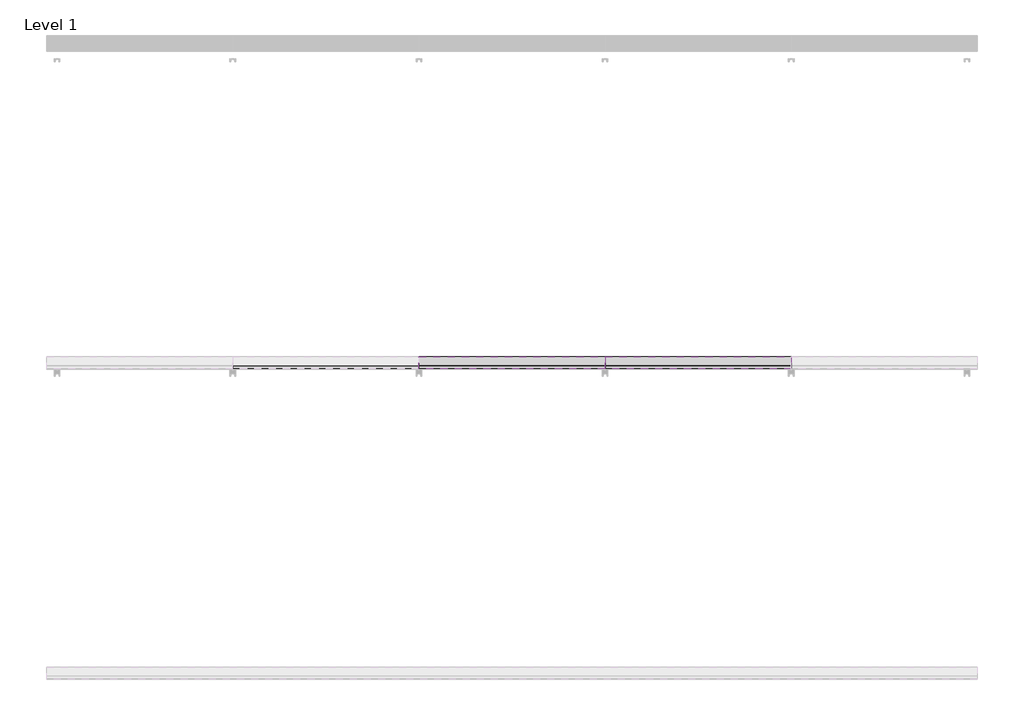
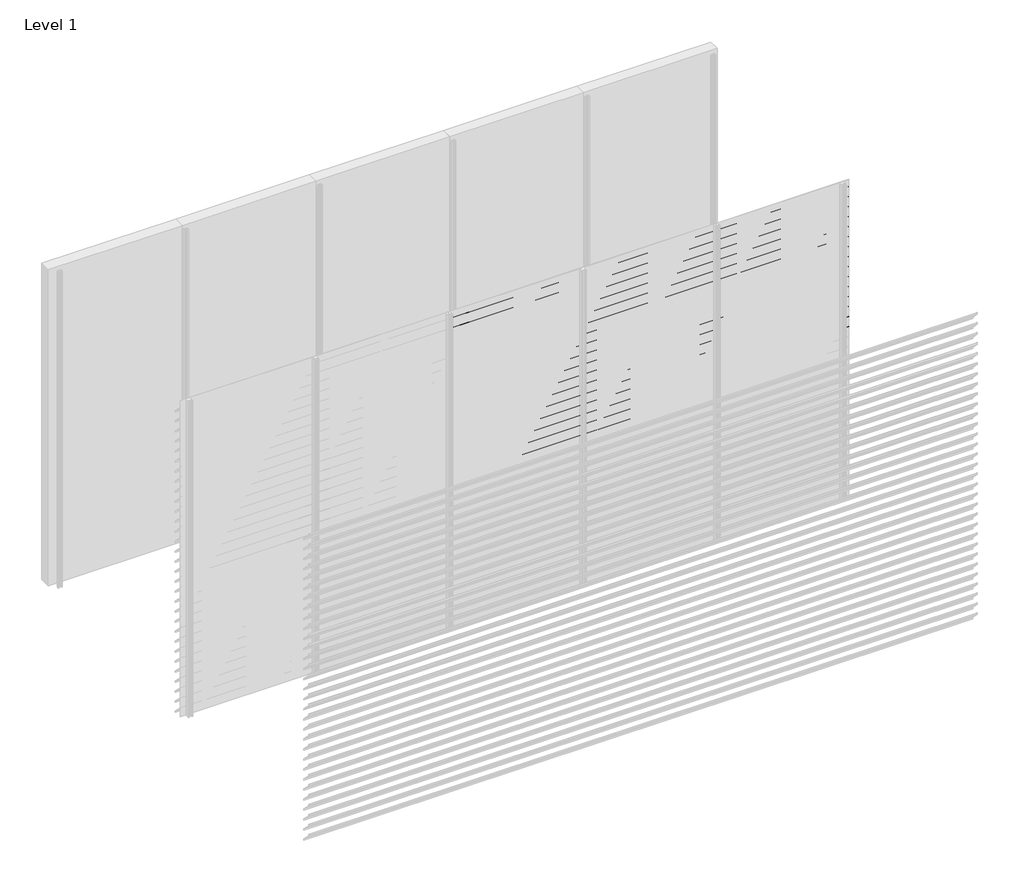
# One storey, part 19 of 24: 89 proxies.
"""IFC4 building model written with IfcOpenShell, lengths in millimetres."""

from ifc_helpers import new_model, si_unit, frame, origin, place, context, project, spatial, polyline, outline, extrude, element, save

model = new_model("IFC4")

# Units and contexts
model_context = context("Model", 3, world=origin())
ifc_project = project(units=[si_unit("LENGTHUNIT", "METRE", prefix="MILLI")], contexts=[model_context])

# Site, building, storey
site = spatial("IfcSite", under=ifc_project)
building = spatial("IfcBuilding", under=site)
storey = spatial("IfcBuildingStorey", under=building, Name="Level 1", Elevation=0.0)

# Proxies
placement = place(None, origin())
element("IfcBuildingElementProxy", 1, Name="Wall Sweeps", at=placement, inside=storey, context=model_context, shape_type="SweptSolid", body=[
    extrude(outline(polyline([(-11920.8, 1037.9), (-11922.3, 1037.9), (-11922.3, 1050.1762333), (-11998.0, 1125.4561238), (-11998.0, 1140.0), (-11996.5, 1140.0), (-11996.5, 1126.0798905), (-11920.8, 1050.8), (-11920.8, 1037.9)])), frame((1200.0, 0.0, 0.0), z_axis=(1.0, 0.0, 0.0), x_axis=(0.0, 1.0, 0.0)), (0.0, 0.0, 1.0), 1200.0),
])
element("IfcBuildingElementProxy", 2, Name="Wall Sweeps", at=placement, inside=storey, context=model_context, shape_type="SweptSolid", body=[
    extrude(outline(polyline([(-11920.8, 942.9), (-11922.3, 942.9), (-11922.3, 955.1762333), (-11998.0, 1030.4561238), (-11998.0, 1045.0), (-11996.5, 1045.0), (-11996.5, 1031.0798905), (-11920.8, 955.8), (-11920.8, 942.9)])), frame((1200.0, 0.0, 0.0), z_axis=(1.0, 0.0, 0.0), x_axis=(0.0, 1.0, 0.0)), (0.0, 0.0, 1.0), 1200.0),
])
element("IfcBuildingElementProxy", 3, Name="Wall Sweeps", at=placement, inside=storey, context=model_context, shape_type="SweptSolid", body=[
    extrude(outline(polyline([(-11920.8, 847.9), (-11922.3, 847.9), (-11922.3, 860.1762333), (-11998.0, 935.4561238), (-11998.0, 950.0), (-11996.5, 950.0), (-11996.5, 936.0798905), (-11920.8, 860.8), (-11920.8, 847.9)])), frame((1200.0, 0.0, 0.0), z_axis=(1.0, 0.0, 0.0), x_axis=(0.0, 1.0, 0.0)), (0.0, 0.0, 1.0), 1200.0),
])
element("IfcBuildingElementProxy", 4, Name="Wall Sweeps", at=placement, inside=storey, context=model_context, shape_type="SweptSolid", body=[
    extrude(outline(polyline([(-11920.8, 752.9), (-11922.3, 752.9), (-11922.3, 765.1762333), (-11998.0, 840.4561238), (-11998.0, 855.0), (-11996.5, 855.0), (-11996.5, 841.0798905), (-11920.8, 765.8), (-11920.8, 752.9)])), frame((1200.0, 0.0, 0.0), z_axis=(1.0, 0.0, 0.0), x_axis=(0.0, 1.0, 0.0)), (0.0, 0.0, 1.0), 1200.0),
])
element("IfcBuildingElementProxy", 5, Name="Wall Sweeps", at=placement, inside=storey, context=model_context, shape_type="SweptSolid", body=[
    extrude(outline(polyline([(-11920.8, 657.9), (-11922.3, 657.9), (-11922.3, 670.1762333), (-11998.0, 745.4561238), (-11998.0, 760.0), (-11996.5, 760.0), (-11996.5, 746.0798905), (-11920.8, 670.8), (-11920.8, 657.9)])), frame((1200.0, 0.0, 0.0), z_axis=(1.0, 0.0, 0.0), x_axis=(0.0, 1.0, 0.0)), (0.0, 0.0, 1.0), 1200.0),
])
element("IfcBuildingElementProxy", 6, Name="Wall Sweeps", at=placement, inside=storey, context=model_context, shape_type="SweptSolid", body=[
    extrude(outline(polyline([(-11920.8, 562.9), (-11922.3, 562.9), (-11922.3, 575.1762333), (-11998.0, 650.4561238), (-11998.0, 665.0), (-11996.5, 665.0), (-11996.5, 651.0798905), (-11920.8, 575.8), (-11920.8, 562.9)])), frame((1200.0, 0.0, 0.0), z_axis=(1.0, 0.0, 0.0), x_axis=(0.0, 1.0, 0.0)), (0.0, 0.0, 1.0), 1200.0),
])
element("IfcBuildingElementProxy", 7, Name="Wall Sweeps", at=placement, inside=storey, context=model_context, shape_type="SweptSolid", body=[
    extrude(outline(polyline([(-11920.8, 467.9), (-11922.3, 467.9), (-11922.3, 480.1762333), (-11998.0, 555.4561238), (-11998.0, 570.0), (-11996.5, 570.0), (-11996.5, 556.0798905), (-11920.8, 480.8), (-11920.8, 467.9)])), frame((1200.0, 0.0, 0.0), z_axis=(1.0, 0.0, 0.0), x_axis=(0.0, 1.0, 0.0)), (0.0, 0.0, 1.0), 1200.0),
])
element("IfcBuildingElementProxy", 8, Name="Wall Sweeps", at=placement, inside=storey, context=model_context, shape_type="SweptSolid", body=[
    extrude(outline(polyline([(-11920.8, 372.9), (-11922.3, 372.9), (-11922.3, 385.1762333), (-11998.0, 460.4561238), (-11998.0, 475.0), (-11996.5, 475.0), (-11996.5, 461.0798905), (-11920.8, 385.8), (-11920.8, 372.9)])), frame((1200.0, 0.0, 0.0), z_axis=(1.0, 0.0, 0.0), x_axis=(0.0, 1.0, 0.0)), (0.0, 0.0, 1.0), 1200.0),
])
element("IfcBuildingElementProxy", 9, Name="Wall Sweeps", at=placement, inside=storey, context=model_context, shape_type="SweptSolid", body=[
    extrude(outline(polyline([(-11920.8, 277.9), (-11922.3, 277.9), (-11922.3, 290.1762333), (-11998.0, 365.4561238), (-11998.0, 380.0), (-11996.5, 380.0), (-11996.5, 366.0798905), (-11920.8, 290.8), (-11920.8, 277.9)])), frame((1200.0, 0.0, 0.0), z_axis=(1.0, 0.0, 0.0), x_axis=(0.0, 1.0, 0.0)), (0.0, 0.0, 1.0), 1200.0),
])
element("IfcBuildingElementProxy", 10, Name="Wall Sweeps", at=placement, inside=storey, context=model_context, shape_type="SweptSolid", body=[
    extrude(outline(polyline([(-11920.8, 182.9), (-11922.3, 182.9), (-11922.3, 195.1762333), (-11998.0, 270.4561238), (-11998.0, 285.0), (-11996.5, 285.0), (-11996.5, 271.0798905), (-11920.8, 195.8), (-11920.8, 182.9)])), frame((1200.0, 0.0, 0.0), z_axis=(1.0, 0.0, 0.0), x_axis=(0.0, 1.0, 0.0)), (0.0, 0.0, 1.0), 1200.0),
])
element("IfcBuildingElementProxy", 11, Name="Wall Sweeps", at=placement, inside=storey, context=model_context, shape_type="SweptSolid", body=[
    extrude(outline(polyline([(-11920.8, 87.9), (-11922.3, 87.9), (-11922.3, 100.1762333), (-11998.0, 175.4561238), (-11998.0, 190.0), (-11996.5, 190.0), (-11996.5, 176.0798905), (-11920.8, 100.8), (-11920.8, 87.9)])), frame((1200.0, 0.0, 0.0), z_axis=(1.0, 0.0, 0.0), x_axis=(0.0, 1.0, 0.0)), (0.0, 0.0, 1.0), 1200.0),
])
element("IfcBuildingElementProxy", 12, Name="Wall Sweeps", at=placement, inside=storey, context=model_context, shape_type="SweptSolid", body=[
    extrude(outline(polyline([(-11920.8, -7.1), (-11922.3, -7.1), (-11922.3, 5.1762333), (-11998.0, 80.4561238), (-11998.0, 95.0), (-11996.5, 95.0), (-11996.5, 81.0798905), (-11920.8, 5.8), (-11920.8, -7.1)])), frame((1200.0, 0.0, 0.0), z_axis=(1.0, 0.0, 0.0), x_axis=(0.0, 1.0, 0.0)), (0.0, 0.0, 1.0), 1200.0),
])
element("IfcBuildingElementProxy", 13, Name="Wall Sweeps", at=placement, inside=storey, context=model_context, shape_type="SweptSolid", body=[
    extrude(outline(polyline([(-11920.8, 2842.9), (-11922.3, 2842.9), (-11922.3, 2855.1762333), (-11998.0, 2930.4561238), (-11998.0, 2945.0), (-11996.5, 2945.0), (-11996.5, 2931.0798905), (-11920.8, 2855.8), (-11920.8, 2842.9)])), frame((2400.0, 0.0, 0.0), z_axis=(1.0, 0.0, 0.0), x_axis=(0.0, 1.0, 0.0)), (0.0, 0.0, 1.0), 1200.0),
])
element("IfcBuildingElementProxy", 14, Name="Wall Sweeps", at=placement, inside=storey, context=model_context, shape_type="SweptSolid", body=[
    extrude(outline(polyline([(-11920.8, 2747.9), (-11922.3, 2747.9), (-11922.3, 2760.1762333), (-11998.0, 2835.4561238), (-11998.0, 2850.0), (-11996.5, 2850.0), (-11996.5, 2836.0798905), (-11920.8, 2760.8), (-11920.8, 2747.9)])), frame((2400.0, 0.0, 0.0), z_axis=(1.0, 0.0, 0.0), x_axis=(0.0, 1.0, 0.0)), (0.0, 0.0, 1.0), 1200.0),
])
element("IfcBuildingElementProxy", 15, Name="Wall Sweeps", at=placement, inside=storey, context=model_context, shape_type="SweptSolid", body=[
    extrude(outline(polyline([(-11920.8, 2652.9), (-11922.3, 2652.9), (-11922.3, 2665.1762333), (-11998.0, 2740.4561238), (-11998.0, 2755.0), (-11996.5, 2755.0), (-11996.5, 2741.0798905), (-11920.8, 2665.8), (-11920.8, 2652.9)])), frame((2400.0, 0.0, 0.0), z_axis=(1.0, 0.0, 0.0), x_axis=(0.0, 1.0, 0.0)), (0.0, 0.0, 1.0), 1200.0),
])
element("IfcBuildingElementProxy", 16, Name="Wall Sweeps", at=placement, inside=storey, context=model_context, shape_type="SweptSolid", body=[
    extrude(outline(polyline([(-11920.8, 2557.9), (-11922.3, 2557.9), (-11922.3, 2570.1762333), (-11998.0, 2645.4561238), (-11998.0, 2660.0), (-11996.5, 2660.0), (-11996.5, 2646.0798905), (-11920.8, 2570.8), (-11920.8, 2557.9)])), frame((2400.0, 0.0, 0.0), z_axis=(1.0, 0.0, 0.0), x_axis=(0.0, 1.0, 0.0)), (0.0, 0.0, 1.0), 1200.0),
])
element("IfcBuildingElementProxy", 17, Name="Wall Sweeps", at=placement, inside=storey, context=model_context, shape_type="SweptSolid", body=[
    extrude(outline(polyline([(-11920.8, 2462.9), (-11922.3, 2462.9), (-11922.3, 2475.1762333), (-11998.0, 2550.4561238), (-11998.0, 2565.0), (-11996.5, 2565.0), (-11996.5, 2551.0798905), (-11920.8, 2475.8), (-11920.8, 2462.9)])), frame((2400.0, 0.0, 0.0), z_axis=(1.0, 0.0, 0.0), x_axis=(0.0, 1.0, 0.0)), (0.0, 0.0, 1.0), 1200.0),
])
element("IfcBuildingElementProxy", 18, Name="Wall Sweeps", at=placement, inside=storey, context=model_context, shape_type="SweptSolid", body=[
    extrude(outline(polyline([(-11920.8, 2367.9), (-11922.3, 2367.9), (-11922.3, 2380.1762333), (-11998.0, 2455.4561238), (-11998.0, 2470.0), (-11996.5, 2470.0), (-11996.5, 2456.0798905), (-11920.8, 2380.8), (-11920.8, 2367.9)])), frame((2400.0, 0.0, 0.0), z_axis=(1.0, 0.0, 0.0), x_axis=(0.0, 1.0, 0.0)), (0.0, 0.0, 1.0), 1200.0),
])
element("IfcBuildingElementProxy", 19, Name="Wall Sweeps", at=placement, inside=storey, context=model_context, shape_type="SweptSolid", body=[
    extrude(outline(polyline([(-11920.8, 2272.9), (-11922.3, 2272.9), (-11922.3, 2285.1762333), (-11998.0, 2360.4561238), (-11998.0, 2375.0), (-11996.5, 2375.0), (-11996.5, 2361.0798905), (-11920.8, 2285.8), (-11920.8, 2272.9)])), frame((2400.0, 0.0, 0.0), z_axis=(1.0, 0.0, 0.0), x_axis=(0.0, 1.0, 0.0)), (0.0, 0.0, 1.0), 1200.0),
])
element("IfcBuildingElementProxy", 20, Name="Wall Sweeps", at=placement, inside=storey, context=model_context, shape_type="SweptSolid", body=[
    extrude(outline(polyline([(-11920.8, 2177.9), (-11922.3, 2177.9), (-11922.3, 2190.1762333), (-11998.0, 2265.4561238), (-11998.0, 2280.0), (-11996.5, 2280.0), (-11996.5, 2266.0798905), (-11920.8, 2190.8), (-11920.8, 2177.9)])), frame((2400.0, 0.0, 0.0), z_axis=(1.0, 0.0, 0.0), x_axis=(0.0, 1.0, 0.0)), (0.0, 0.0, 1.0), 1200.0),
])
element("IfcBuildingElementProxy", 21, Name="Wall Sweeps", at=placement, inside=storey, context=model_context, shape_type="SweptSolid", body=[
    extrude(outline(polyline([(-11920.8, 2082.9), (-11922.3, 2082.9), (-11922.3, 2095.1762333), (-11998.0, 2170.4561238), (-11998.0, 2185.0), (-11996.5, 2185.0), (-11996.5, 2171.0798905), (-11920.8, 2095.8), (-11920.8, 2082.9)])), frame((2400.0, 0.0, 0.0), z_axis=(1.0, 0.0, 0.0), x_axis=(0.0, 1.0, 0.0)), (0.0, 0.0, 1.0), 1200.0),
])
element("IfcBuildingElementProxy", 22, Name="Wall Sweeps", at=placement, inside=storey, context=model_context, shape_type="SweptSolid", body=[
    extrude(outline(polyline([(-11920.8, 1987.9), (-11922.3, 1987.9), (-11922.3, 2000.1762333), (-11998.0, 2075.4561238), (-11998.0, 2090.0), (-11996.5, 2090.0), (-11996.5, 2076.0798905), (-11920.8, 2000.8), (-11920.8, 1987.9)])), frame((2400.0, 0.0, 0.0), z_axis=(1.0, 0.0, 0.0), x_axis=(0.0, 1.0, 0.0)), (0.0, 0.0, 1.0), 1200.0),
])
element("IfcBuildingElementProxy", 23, Name="Wall Sweeps", at=placement, inside=storey, context=model_context, shape_type="SweptSolid", body=[
    extrude(outline(polyline([(-11920.8, 1892.9), (-11922.3, 1892.9), (-11922.3, 1905.1762333), (-11998.0, 1980.4561238), (-11998.0, 1995.0), (-11996.5, 1995.0), (-11996.5, 1981.0798905), (-11920.8, 1905.8), (-11920.8, 1892.9)])), frame((2400.0, 0.0, 0.0), z_axis=(1.0, 0.0, 0.0), x_axis=(0.0, 1.0, 0.0)), (0.0, 0.0, 1.0), 1200.0),
])
element("IfcBuildingElementProxy", 24, Name="Wall Sweeps", at=placement, inside=storey, context=model_context, shape_type="SweptSolid", body=[
    extrude(outline(polyline([(-11920.8, 1797.9), (-11922.3, 1797.9), (-11922.3, 1810.1762333), (-11998.0, 1885.4561238), (-11998.0, 1900.0), (-11996.5, 1900.0), (-11996.5, 1886.0798905), (-11920.8, 1810.8), (-11920.8, 1797.9)])), frame((2400.0, 0.0, 0.0), z_axis=(1.0, 0.0, 0.0), x_axis=(0.0, 1.0, 0.0)), (0.0, 0.0, 1.0), 1200.0),
])
element("IfcBuildingElementProxy", 25, Name="Wall Sweeps", at=placement, inside=storey, context=model_context, shape_type="SweptSolid", body=[
    extrude(outline(polyline([(-11920.8, 1702.9), (-11922.3, 1702.9), (-11922.3, 1715.1762333), (-11998.0, 1790.4561238), (-11998.0, 1805.0), (-11996.5, 1805.0), (-11996.5, 1791.0798905), (-11920.8, 1715.8), (-11920.8, 1702.9)])), frame((2400.0, 0.0, 0.0), z_axis=(1.0, 0.0, 0.0), x_axis=(0.0, 1.0, 0.0)), (0.0, 0.0, 1.0), 1200.0),
])
element("IfcBuildingElementProxy", 26, Name="Wall Sweeps", at=placement, inside=storey, context=model_context, shape_type="SweptSolid", body=[
    extrude(outline(polyline([(-11920.8, 1607.9), (-11922.3, 1607.9), (-11922.3, 1620.1762333), (-11998.0, 1695.4561238), (-11998.0, 1710.0), (-11996.5, 1710.0), (-11996.5, 1696.0798905), (-11920.8, 1620.8), (-11920.8, 1607.9)])), frame((2400.0, 0.0, 0.0), z_axis=(1.0, 0.0, 0.0), x_axis=(0.0, 1.0, 0.0)), (0.0, 0.0, 1.0), 1200.0),
])
element("IfcBuildingElementProxy", 27, Name="Wall Sweeps", at=placement, inside=storey, context=model_context, shape_type="SweptSolid", body=[
    extrude(outline(polyline([(-11920.8, 1512.9), (-11922.3, 1512.9), (-11922.3, 1525.1762333), (-11998.0, 1600.4561238), (-11998.0, 1615.0), (-11996.5, 1615.0), (-11996.5, 1601.0798905), (-11920.8, 1525.8), (-11920.8, 1512.9)])), frame((2400.0, 0.0, 0.0), z_axis=(1.0, 0.0, 0.0), x_axis=(0.0, 1.0, 0.0)), (0.0, 0.0, 1.0), 1200.0),
])
element("IfcBuildingElementProxy", 28, Name="Wall Sweeps", at=placement, inside=storey, context=model_context, shape_type="SweptSolid", body=[
    extrude(outline(polyline([(-11920.8, 1417.9), (-11922.3, 1417.9), (-11922.3, 1430.1762333), (-11998.0, 1505.4561238), (-11998.0, 1520.0), (-11996.5, 1520.0), (-11996.5, 1506.0798905), (-11920.8, 1430.8), (-11920.8, 1417.9)])), frame((2400.0, 0.0, 0.0), z_axis=(1.0, 0.0, 0.0), x_axis=(0.0, 1.0, 0.0)), (0.0, 0.0, 1.0), 1200.0),
])
element("IfcBuildingElementProxy", 29, Name="Wall Sweeps", at=placement, inside=storey, context=model_context, shape_type="SweptSolid", body=[
    extrude(outline(polyline([(-11920.8, 1322.9), (-11922.3, 1322.9), (-11922.3, 1335.1762333), (-11998.0, 1410.4561238), (-11998.0, 1425.0), (-11996.5, 1425.0), (-11996.5, 1411.0798905), (-11920.8, 1335.8), (-11920.8, 1322.9)])), frame((2400.0, 0.0, 0.0), z_axis=(1.0, 0.0, 0.0), x_axis=(0.0, 1.0, 0.0)), (0.0, 0.0, 1.0), 1200.0),
])
element("IfcBuildingElementProxy", 30, Name="Wall Sweeps", at=placement, inside=storey, context=model_context, shape_type="SweptSolid", body=[
    extrude(outline(polyline([(-11920.8, 1227.9), (-11922.3, 1227.9), (-11922.3, 1240.1762333), (-11998.0, 1315.4561238), (-11998.0, 1330.0), (-11996.5, 1330.0), (-11996.5, 1316.0798905), (-11920.8, 1240.8), (-11920.8, 1227.9)])), frame((2400.0, 0.0, 0.0), z_axis=(1.0, 0.0, 0.0), x_axis=(0.0, 1.0, 0.0)), (0.0, 0.0, 1.0), 1200.0),
])
element("IfcBuildingElementProxy", 31, Name="Wall Sweeps", at=placement, inside=storey, context=model_context, shape_type="SweptSolid", body=[
    extrude(outline(polyline([(-11920.8, 1132.9), (-11922.3, 1132.9), (-11922.3, 1145.1762333), (-11998.0, 1220.4561238), (-11998.0, 1235.0), (-11996.5, 1235.0), (-11996.5, 1221.0798905), (-11920.8, 1145.8), (-11920.8, 1132.9)])), frame((2400.0, 0.0, 0.0), z_axis=(1.0, 0.0, 0.0), x_axis=(0.0, 1.0, 0.0)), (0.0, 0.0, 1.0), 1200.0),
])
element("IfcBuildingElementProxy", 32, Name="Wall Sweeps", at=placement, inside=storey, context=model_context, shape_type="SweptSolid", body=[
    extrude(outline(polyline([(-11920.8, 1037.9), (-11922.3, 1037.9), (-11922.3, 1050.1762333), (-11998.0, 1125.4561238), (-11998.0, 1140.0), (-11996.5, 1140.0), (-11996.5, 1126.0798905), (-11920.8, 1050.8), (-11920.8, 1037.9)])), frame((2400.0, 0.0, 0.0), z_axis=(1.0, 0.0, 0.0), x_axis=(0.0, 1.0, 0.0)), (0.0, 0.0, 1.0), 1200.0),
])
element("IfcBuildingElementProxy", 33, Name="Wall Sweeps", at=placement, inside=storey, context=model_context, shape_type="SweptSolid", body=[
    extrude(outline(polyline([(-11920.8, 942.9), (-11922.3, 942.9), (-11922.3, 955.1762333), (-11998.0, 1030.4561238), (-11998.0, 1045.0), (-11996.5, 1045.0), (-11996.5, 1031.0798905), (-11920.8, 955.8), (-11920.8, 942.9)])), frame((2400.0, 0.0, 0.0), z_axis=(1.0, 0.0, 0.0), x_axis=(0.0, 1.0, 0.0)), (0.0, 0.0, 1.0), 1200.0),
])
element("IfcBuildingElementProxy", 34, Name="Wall Sweeps", at=placement, inside=storey, context=model_context, shape_type="SweptSolid", body=[
    extrude(outline(polyline([(-11920.8, 847.9), (-11922.3, 847.9), (-11922.3, 860.1762333), (-11998.0, 935.4561238), (-11998.0, 950.0), (-11996.5, 950.0), (-11996.5, 936.0798905), (-11920.8, 860.8), (-11920.8, 847.9)])), frame((2400.0, 0.0, 0.0), z_axis=(1.0, 0.0, 0.0), x_axis=(0.0, 1.0, 0.0)), (0.0, 0.0, 1.0), 1200.0),
])
element("IfcBuildingElementProxy", 35, Name="Wall Sweeps", at=placement, inside=storey, context=model_context, shape_type="SweptSolid", body=[
    extrude(outline(polyline([(-11920.8, 752.9), (-11922.3, 752.9), (-11922.3, 765.1762333), (-11998.0, 840.4561238), (-11998.0, 855.0), (-11996.5, 855.0), (-11996.5, 841.0798905), (-11920.8, 765.8), (-11920.8, 752.9)])), frame((2400.0, 0.0, 0.0), z_axis=(1.0, 0.0, 0.0), x_axis=(0.0, 1.0, 0.0)), (0.0, 0.0, 1.0), 1200.0),
])
element("IfcBuildingElementProxy", 36, Name="Wall Sweeps", at=placement, inside=storey, context=model_context, shape_type="SweptSolid", body=[
    extrude(outline(polyline([(-11920.8, 657.9), (-11922.3, 657.9), (-11922.3, 670.1762333), (-11998.0, 745.4561238), (-11998.0, 760.0), (-11996.5, 760.0), (-11996.5, 746.0798905), (-11920.8, 670.8), (-11920.8, 657.9)])), frame((2400.0, 0.0, 0.0), z_axis=(1.0, 0.0, 0.0), x_axis=(0.0, 1.0, 0.0)), (0.0, 0.0, 1.0), 1200.0),
])
element("IfcBuildingElementProxy", 37, Name="Wall Sweeps", at=placement, inside=storey, context=model_context, shape_type="SweptSolid", body=[
    extrude(outline(polyline([(-11920.8, 562.9), (-11922.3, 562.9), (-11922.3, 575.1762333), (-11998.0, 650.4561238), (-11998.0, 665.0), (-11996.5, 665.0), (-11996.5, 651.0798905), (-11920.8, 575.8), (-11920.8, 562.9)])), frame((2400.0, 0.0, 0.0), z_axis=(1.0, 0.0, 0.0), x_axis=(0.0, 1.0, 0.0)), (0.0, 0.0, 1.0), 1200.0),
])
element("IfcBuildingElementProxy", 38, Name="Wall Sweeps", at=placement, inside=storey, context=model_context, shape_type="SweptSolid", body=[
    extrude(outline(polyline([(-11920.8, 467.9), (-11922.3, 467.9), (-11922.3, 480.1762333), (-11998.0, 555.4561238), (-11998.0, 570.0), (-11996.5, 570.0), (-11996.5, 556.0798905), (-11920.8, 480.8), (-11920.8, 467.9)])), frame((2400.0, 0.0, 0.0), z_axis=(1.0, 0.0, 0.0), x_axis=(0.0, 1.0, 0.0)), (0.0, 0.0, 1.0), 1200.0),
])
element("IfcBuildingElementProxy", 39, Name="Wall Sweeps", at=placement, inside=storey, context=model_context, shape_type="SweptSolid", body=[
    extrude(outline(polyline([(-11920.8, 372.9), (-11922.3, 372.9), (-11922.3, 385.1762333), (-11998.0, 460.4561238), (-11998.0, 475.0), (-11996.5, 475.0), (-11996.5, 461.0798905), (-11920.8, 385.8), (-11920.8, 372.9)])), frame((2400.0, 0.0, 0.0), z_axis=(1.0, 0.0, 0.0), x_axis=(0.0, 1.0, 0.0)), (0.0, 0.0, 1.0), 1200.0),
])
element("IfcBuildingElementProxy", 40, Name="Wall Sweeps", at=placement, inside=storey, context=model_context, shape_type="SweptSolid", body=[
    extrude(outline(polyline([(-11920.8, 277.9), (-11922.3, 277.9), (-11922.3, 290.1762333), (-11998.0, 365.4561238), (-11998.0, 380.0), (-11996.5, 380.0), (-11996.5, 366.0798905), (-11920.8, 290.8), (-11920.8, 277.9)])), frame((2400.0, 0.0, 0.0), z_axis=(1.0, 0.0, 0.0), x_axis=(0.0, 1.0, 0.0)), (0.0, 0.0, 1.0), 1200.0),
])
element("IfcBuildingElementProxy", 41, Name="Wall Sweeps", at=placement, inside=storey, context=model_context, shape_type="SweptSolid", body=[
    extrude(outline(polyline([(-11920.8, 182.9), (-11922.3, 182.9), (-11922.3, 195.1762333), (-11998.0, 270.4561238), (-11998.0, 285.0), (-11996.5, 285.0), (-11996.5, 271.0798905), (-11920.8, 195.8), (-11920.8, 182.9)])), frame((2400.0, 0.0, 0.0), z_axis=(1.0, 0.0, 0.0), x_axis=(0.0, 1.0, 0.0)), (0.0, 0.0, 1.0), 1200.0),
])
element("IfcBuildingElementProxy", 42, Name="Wall Sweeps", at=placement, inside=storey, context=model_context, shape_type="SweptSolid", body=[
    extrude(outline(polyline([(-11920.8, 87.9), (-11922.3, 87.9), (-11922.3, 100.1762333), (-11998.0, 175.4561238), (-11998.0, 190.0), (-11996.5, 190.0), (-11996.5, 176.0798905), (-11920.8, 100.8), (-11920.8, 87.9)])), frame((2400.0, 0.0, 0.0), z_axis=(1.0, 0.0, 0.0), x_axis=(0.0, 1.0, 0.0)), (0.0, 0.0, 1.0), 1200.0),
])
element("IfcBuildingElementProxy", 43, Name="Wall Sweeps", at=placement, inside=storey, context=model_context, shape_type="SweptSolid", body=[
    extrude(outline(polyline([(-11920.8, -7.1), (-11922.3, -7.1), (-11922.3, 5.1762333), (-11998.0, 80.4561238), (-11998.0, 95.0), (-11996.5, 95.0), (-11996.5, 81.0798905), (-11920.8, 5.8), (-11920.8, -7.1)])), frame((2400.0, 0.0, 0.0), z_axis=(1.0, 0.0, 0.0), x_axis=(0.0, 1.0, 0.0)), (0.0, 0.0, 1.0), 1200.0),
])
element("IfcBuildingElementProxy", 44, Name="Wall Sweeps", at=placement, inside=storey, context=model_context, shape_type="SweptSolid", body=[
    extrude(outline(polyline([(-11920.8, 2842.9), (-11922.3, 2842.9), (-11922.3, 2855.1762333), (-11998.0, 2930.4561238), (-11998.0, 2945.0), (-11996.5, 2945.0), (-11996.5, 2931.0798905), (-11920.8, 2855.8), (-11920.8, 2842.9)])), frame((3600.0, 0.0, 0.0), z_axis=(1.0, 0.0, 0.0), x_axis=(0.0, 1.0, 0.0)), (0.0, 0.0, 1.0), 1200.0),
])
element("IfcBuildingElementProxy", 45, Name="Wall Sweeps", at=placement, inside=storey, context=model_context, shape_type="SweptSolid", body=[
    extrude(outline(polyline([(-11920.8, 2747.9), (-11922.3, 2747.9), (-11922.3, 2760.1762333), (-11998.0, 2835.4561238), (-11998.0, 2850.0), (-11996.5, 2850.0), (-11996.5, 2836.0798905), (-11920.8, 2760.8), (-11920.8, 2747.9)])), frame((3600.0, 0.0, 0.0), z_axis=(1.0, 0.0, 0.0), x_axis=(0.0, 1.0, 0.0)), (0.0, 0.0, 1.0), 1200.0),
])
element("IfcBuildingElementProxy", 46, Name="Wall Sweeps", at=placement, inside=storey, context=model_context, shape_type="SweptSolid", body=[
    extrude(outline(polyline([(-11920.8, 2652.9), (-11922.3, 2652.9), (-11922.3, 2665.1762333), (-11998.0, 2740.4561238), (-11998.0, 2755.0), (-11996.5, 2755.0), (-11996.5, 2741.0798905), (-11920.8, 2665.8), (-11920.8, 2652.9)])), frame((3600.0, 0.0, 0.0), z_axis=(1.0, 0.0, 0.0), x_axis=(0.0, 1.0, 0.0)), (0.0, 0.0, 1.0), 1200.0),
])
element("IfcBuildingElementProxy", 47, Name="Wall Sweeps", at=placement, inside=storey, context=model_context, shape_type="SweptSolid", body=[
    extrude(outline(polyline([(-11920.8, 2557.9), (-11922.3, 2557.9), (-11922.3, 2570.1762333), (-11998.0, 2645.4561238), (-11998.0, 2660.0), (-11996.5, 2660.0), (-11996.5, 2646.0798905), (-11920.8, 2570.8), (-11920.8, 2557.9)])), frame((3600.0, 0.0, 0.0), z_axis=(1.0, 0.0, 0.0), x_axis=(0.0, 1.0, 0.0)), (0.0, 0.0, 1.0), 1200.0),
])
element("IfcBuildingElementProxy", 48, Name="Wall Sweeps", at=placement, inside=storey, context=model_context, shape_type="SweptSolid", body=[
    extrude(outline(polyline([(-11920.8, 2462.9), (-11922.3, 2462.9), (-11922.3, 2475.1762333), (-11998.0, 2550.4561238), (-11998.0, 2565.0), (-11996.5, 2565.0), (-11996.5, 2551.0798905), (-11920.8, 2475.8), (-11920.8, 2462.9)])), frame((3600.0, 0.0, 0.0), z_axis=(1.0, 0.0, 0.0), x_axis=(0.0, 1.0, 0.0)), (0.0, 0.0, 1.0), 1200.0),
])
element("IfcBuildingElementProxy", 49, Name="Wall Sweeps", at=placement, inside=storey, context=model_context, shape_type="SweptSolid", body=[
    extrude(outline(polyline([(-11920.8, 2367.9), (-11922.3, 2367.9), (-11922.3, 2380.1762333), (-11998.0, 2455.4561238), (-11998.0, 2470.0), (-11996.5, 2470.0), (-11996.5, 2456.0798905), (-11920.8, 2380.8), (-11920.8, 2367.9)])), frame((3600.0, 0.0, 0.0), z_axis=(1.0, 0.0, 0.0), x_axis=(0.0, 1.0, 0.0)), (0.0, 0.0, 1.0), 1200.0),
])
element("IfcBuildingElementProxy", 50, Name="Wall Sweeps", at=placement, inside=storey, context=model_context, shape_type="SweptSolid", body=[
    extrude(outline(polyline([(-11920.8, 2272.9), (-11922.3, 2272.9), (-11922.3, 2285.1762333), (-11998.0, 2360.4561238), (-11998.0, 2375.0), (-11996.5, 2375.0), (-11996.5, 2361.0798905), (-11920.8, 2285.8), (-11920.8, 2272.9)])), frame((3600.0, 0.0, 0.0), z_axis=(1.0, 0.0, 0.0), x_axis=(0.0, 1.0, 0.0)), (0.0, 0.0, 1.0), 1200.0),
])
element("IfcBuildingElementProxy", 51, Name="Wall Sweeps", at=placement, inside=storey, context=model_context, shape_type="SweptSolid", body=[
    extrude(outline(polyline([(-11920.8, 2177.9), (-11922.3, 2177.9), (-11922.3, 2190.1762333), (-11998.0, 2265.4561238), (-11998.0, 2280.0), (-11996.5, 2280.0), (-11996.5, 2266.0798905), (-11920.8, 2190.8), (-11920.8, 2177.9)])), frame((3600.0, 0.0, 0.0), z_axis=(1.0, 0.0, 0.0), x_axis=(0.0, 1.0, 0.0)), (0.0, 0.0, 1.0), 1200.0),
])
element("IfcBuildingElementProxy", 52, Name="Wall Sweeps", at=placement, inside=storey, context=model_context, shape_type="SweptSolid", body=[
    extrude(outline(polyline([(-11920.8, 2082.9), (-11922.3, 2082.9), (-11922.3, 2095.1762333), (-11998.0, 2170.4561238), (-11998.0, 2185.0), (-11996.5, 2185.0), (-11996.5, 2171.0798905), (-11920.8, 2095.8), (-11920.8, 2082.9)])), frame((3600.0, 0.0, 0.0), z_axis=(1.0, 0.0, 0.0), x_axis=(0.0, 1.0, 0.0)), (0.0, 0.0, 1.0), 1200.0),
])
element("IfcBuildingElementProxy", 53, Name="Wall Sweeps", at=placement, inside=storey, context=model_context, shape_type="SweptSolid", body=[
    extrude(outline(polyline([(-11920.8, 1987.9), (-11922.3, 1987.9), (-11922.3, 2000.1762333), (-11998.0, 2075.4561238), (-11998.0, 2090.0), (-11996.5, 2090.0), (-11996.5, 2076.0798905), (-11920.8, 2000.8), (-11920.8, 1987.9)])), frame((3600.0, 0.0, 0.0), z_axis=(1.0, 0.0, 0.0), x_axis=(0.0, 1.0, 0.0)), (0.0, 0.0, 1.0), 1200.0),
])
element("IfcBuildingElementProxy", 54, Name="Wall Sweeps", at=placement, inside=storey, context=model_context, shape_type="SweptSolid", body=[
    extrude(outline(polyline([(-11920.8, 1892.9), (-11922.3, 1892.9), (-11922.3, 1905.1762333), (-11998.0, 1980.4561238), (-11998.0, 1995.0), (-11996.5, 1995.0), (-11996.5, 1981.0798905), (-11920.8, 1905.8), (-11920.8, 1892.9)])), frame((3600.0, 0.0, 0.0), z_axis=(1.0, 0.0, 0.0), x_axis=(0.0, 1.0, 0.0)), (0.0, 0.0, 1.0), 1200.0),
])
element("IfcBuildingElementProxy", 55, Name="Wall Sweeps", at=placement, inside=storey, context=model_context, shape_type="SweptSolid", body=[
    extrude(outline(polyline([(-11920.8, 1797.9), (-11922.3, 1797.9), (-11922.3, 1810.1762333), (-11998.0, 1885.4561238), (-11998.0, 1900.0), (-11996.5, 1900.0), (-11996.5, 1886.0798905), (-11920.8, 1810.8), (-11920.8, 1797.9)])), frame((3600.0, 0.0, 0.0), z_axis=(1.0, 0.0, 0.0), x_axis=(0.0, 1.0, 0.0)), (0.0, 0.0, 1.0), 1200.0),
])
element("IfcBuildingElementProxy", 56, Name="Wall Sweeps", at=placement, inside=storey, context=model_context, shape_type="SweptSolid", body=[
    extrude(outline(polyline([(-11920.8, 1702.9), (-11922.3, 1702.9), (-11922.3, 1715.1762333), (-11998.0, 1790.4561238), (-11998.0, 1805.0), (-11996.5, 1805.0), (-11996.5, 1791.0798905), (-11920.8, 1715.8), (-11920.8, 1702.9)])), frame((3600.0, 0.0, 0.0), z_axis=(1.0, 0.0, 0.0), x_axis=(0.0, 1.0, 0.0)), (0.0, 0.0, 1.0), 1200.0),
])
element("IfcBuildingElementProxy", 57, Name="Wall Sweeps", at=placement, inside=storey, context=model_context, shape_type="SweptSolid", body=[
    extrude(outline(polyline([(-11920.8, 1607.9), (-11922.3, 1607.9), (-11922.3, 1620.1762333), (-11998.0, 1695.4561238), (-11998.0, 1710.0), (-11996.5, 1710.0), (-11996.5, 1696.0798905), (-11920.8, 1620.8), (-11920.8, 1607.9)])), frame((3600.0, 0.0, 0.0), z_axis=(1.0, 0.0, 0.0), x_axis=(0.0, 1.0, 0.0)), (0.0, 0.0, 1.0), 1200.0),
])
element("IfcBuildingElementProxy", 58, Name="Wall Sweeps", at=placement, inside=storey, context=model_context, shape_type="SweptSolid", body=[
    extrude(outline(polyline([(-11920.8, 1512.9), (-11922.3, 1512.9), (-11922.3, 1525.1762333), (-11998.0, 1600.4561238), (-11998.0, 1615.0), (-11996.5, 1615.0), (-11996.5, 1601.0798905), (-11920.8, 1525.8), (-11920.8, 1512.9)])), frame((3600.0, 0.0, 0.0), z_axis=(1.0, 0.0, 0.0), x_axis=(0.0, 1.0, 0.0)), (0.0, 0.0, 1.0), 1200.0),
])
element("IfcBuildingElementProxy", 59, Name="Wall Sweeps", at=placement, inside=storey, context=model_context, shape_type="SweptSolid", body=[
    extrude(outline(polyline([(-11920.8, 1417.9), (-11922.3, 1417.9), (-11922.3, 1430.1762333), (-11998.0, 1505.4561238), (-11998.0, 1520.0), (-11996.5, 1520.0), (-11996.5, 1506.0798905), (-11920.8, 1430.8), (-11920.8, 1417.9)])), frame((3600.0, 0.0, 0.0), z_axis=(1.0, 0.0, 0.0), x_axis=(0.0, 1.0, 0.0)), (0.0, 0.0, 1.0), 1200.0),
])
element("IfcBuildingElementProxy", 60, Name="Wall Sweeps", at=placement, inside=storey, context=model_context, shape_type="SweptSolid", body=[
    extrude(outline(polyline([(-11920.8, 1322.9), (-11922.3, 1322.9), (-11922.3, 1335.1762333), (-11998.0, 1410.4561238), (-11998.0, 1425.0), (-11996.5, 1425.0), (-11996.5, 1411.0798905), (-11920.8, 1335.8), (-11920.8, 1322.9)])), frame((3600.0, 0.0, 0.0), z_axis=(1.0, 0.0, 0.0), x_axis=(0.0, 1.0, 0.0)), (0.0, 0.0, 1.0), 1200.0),
])
element("IfcBuildingElementProxy", 61, Name="Wall Sweeps", at=placement, inside=storey, context=model_context, shape_type="SweptSolid", body=[
    extrude(outline(polyline([(-11920.8, 1227.9), (-11922.3, 1227.9), (-11922.3, 1240.1762333), (-11998.0, 1315.4561238), (-11998.0, 1330.0), (-11996.5, 1330.0), (-11996.5, 1316.0798905), (-11920.8, 1240.8), (-11920.8, 1227.9)])), frame((3600.0, 0.0, 0.0), z_axis=(1.0, 0.0, 0.0), x_axis=(0.0, 1.0, 0.0)), (0.0, 0.0, 1.0), 1200.0),
])
element("IfcBuildingElementProxy", 62, Name="Wall Sweeps", at=placement, inside=storey, context=model_context, shape_type="SweptSolid", body=[
    extrude(outline(polyline([(-11920.8, 1132.9), (-11922.3, 1132.9), (-11922.3, 1145.1762333), (-11998.0, 1220.4561238), (-11998.0, 1235.0), (-11996.5, 1235.0), (-11996.5, 1221.0798905), (-11920.8, 1145.8), (-11920.8, 1132.9)])), frame((3600.0, 0.0, 0.0), z_axis=(1.0, 0.0, 0.0), x_axis=(0.0, 1.0, 0.0)), (0.0, 0.0, 1.0), 1200.0),
])
element("IfcBuildingElementProxy", 63, Name="Wall Sweeps", at=placement, inside=storey, context=model_context, shape_type="SweptSolid", body=[
    extrude(outline(polyline([(-11920.8, 1037.9), (-11922.3, 1037.9), (-11922.3, 1050.1762333), (-11998.0, 1125.4561238), (-11998.0, 1140.0), (-11996.5, 1140.0), (-11996.5, 1126.0798905), (-11920.8, 1050.8), (-11920.8, 1037.9)])), frame((3600.0, 0.0, 0.0), z_axis=(1.0, 0.0, 0.0), x_axis=(0.0, 1.0, 0.0)), (0.0, 0.0, 1.0), 1200.0),
])
element("IfcBuildingElementProxy", 64, Name="Wall Sweeps", at=placement, inside=storey, context=model_context, shape_type="SweptSolid", body=[
    extrude(outline(polyline([(-11920.8, 942.9), (-11922.3, 942.9), (-11922.3, 955.1762333), (-11998.0, 1030.4561238), (-11998.0, 1045.0), (-11996.5, 1045.0), (-11996.5, 1031.0798905), (-11920.8, 955.8), (-11920.8, 942.9)])), frame((3600.0, 0.0, 0.0), z_axis=(1.0, 0.0, 0.0), x_axis=(0.0, 1.0, 0.0)), (0.0, 0.0, 1.0), 1200.0),
])
element("IfcBuildingElementProxy", 65, Name="Wall Sweeps", at=placement, inside=storey, context=model_context, shape_type="SweptSolid", body=[
    extrude(outline(polyline([(-11920.8, 847.9), (-11922.3, 847.9), (-11922.3, 860.1762333), (-11998.0, 935.4561238), (-11998.0, 950.0), (-11996.5, 950.0), (-11996.5, 936.0798905), (-11920.8, 860.8), (-11920.8, 847.9)])), frame((3600.0, 0.0, 0.0), z_axis=(1.0, 0.0, 0.0), x_axis=(0.0, 1.0, 0.0)), (0.0, 0.0, 1.0), 1200.0),
])
element("IfcBuildingElementProxy", 66, Name="Wall Sweeps", at=placement, inside=storey, context=model_context, shape_type="SweptSolid", body=[
    extrude(outline(polyline([(-11920.8, 752.9), (-11922.3, 752.9), (-11922.3, 765.1762333), (-11998.0, 840.4561238), (-11998.0, 855.0), (-11996.5, 855.0), (-11996.5, 841.0798905), (-11920.8, 765.8), (-11920.8, 752.9)])), frame((3600.0, 0.0, 0.0), z_axis=(1.0, 0.0, 0.0), x_axis=(0.0, 1.0, 0.0)), (0.0, 0.0, 1.0), 1200.0),
])
element("IfcBuildingElementProxy", 67, Name="Wall Sweeps", at=placement, inside=storey, context=model_context, shape_type="SweptSolid", body=[
    extrude(outline(polyline([(-11920.8, 657.9), (-11922.3, 657.9), (-11922.3, 670.1762333), (-11998.0, 745.4561238), (-11998.0, 760.0), (-11996.5, 760.0), (-11996.5, 746.0798905), (-11920.8, 670.8), (-11920.8, 657.9)])), frame((3600.0, 0.0, 0.0), z_axis=(1.0, 0.0, 0.0), x_axis=(0.0, 1.0, 0.0)), (0.0, 0.0, 1.0), 1200.0),
])
element("IfcBuildingElementProxy", 68, Name="Wall Sweeps", at=placement, inside=storey, context=model_context, shape_type="SweptSolid", body=[
    extrude(outline(polyline([(-11920.8, 562.9), (-11922.3, 562.9), (-11922.3, 575.1762333), (-11998.0, 650.4561238), (-11998.0, 665.0), (-11996.5, 665.0), (-11996.5, 651.0798905), (-11920.8, 575.8), (-11920.8, 562.9)])), frame((3600.0, 0.0, 0.0), z_axis=(1.0, 0.0, 0.0), x_axis=(0.0, 1.0, 0.0)), (0.0, 0.0, 1.0), 1200.0),
])
element("IfcBuildingElementProxy", 69, Name="Wall Sweeps", at=placement, inside=storey, context=model_context, shape_type="SweptSolid", body=[
    extrude(outline(polyline([(-11920.8, 467.9), (-11922.3, 467.9), (-11922.3, 480.1762333), (-11998.0, 555.4561238), (-11998.0, 570.0), (-11996.5, 570.0), (-11996.5, 556.0798905), (-11920.8, 480.8), (-11920.8, 467.9)])), frame((3600.0, 0.0, 0.0), z_axis=(1.0, 0.0, 0.0), x_axis=(0.0, 1.0, 0.0)), (0.0, 0.0, 1.0), 1200.0),
])
element("IfcBuildingElementProxy", 70, Name="Wall Sweeps", at=placement, inside=storey, context=model_context, shape_type="SweptSolid", body=[
    extrude(outline(polyline([(-11920.8, 372.9), (-11922.3, 372.9), (-11922.3, 385.1762333), (-11998.0, 460.4561238), (-11998.0, 475.0), (-11996.5, 475.0), (-11996.5, 461.0798905), (-11920.8, 385.8), (-11920.8, 372.9)])), frame((3600.0, 0.0, 0.0), z_axis=(1.0, 0.0, 0.0), x_axis=(0.0, 1.0, 0.0)), (0.0, 0.0, 1.0), 1200.0),
])
element("IfcBuildingElementProxy", 71, Name="Wall Sweeps", at=placement, inside=storey, context=model_context, shape_type="SweptSolid", body=[
    extrude(outline(polyline([(-11920.8, 277.9), (-11922.3, 277.9), (-11922.3, 290.1762333), (-11998.0, 365.4561238), (-11998.0, 380.0), (-11996.5, 380.0), (-11996.5, 366.0798905), (-11920.8, 290.8), (-11920.8, 277.9)])), frame((3600.0, 0.0, 0.0), z_axis=(1.0, 0.0, 0.0), x_axis=(0.0, 1.0, 0.0)), (0.0, 0.0, 1.0), 1200.0),
])
element("IfcBuildingElementProxy", 72, Name="Wall Sweeps", at=placement, inside=storey, context=model_context, shape_type="SweptSolid", body=[
    extrude(outline(polyline([(-11920.8, 182.9), (-11922.3, 182.9), (-11922.3, 195.1762333), (-11998.0, 270.4561238), (-11998.0, 285.0), (-11996.5, 285.0), (-11996.5, 271.0798905), (-11920.8, 195.8), (-11920.8, 182.9)])), frame((3600.0, 0.0, 0.0), z_axis=(1.0, 0.0, 0.0), x_axis=(0.0, 1.0, 0.0)), (0.0, 0.0, 1.0), 1200.0),
])
element("IfcBuildingElementProxy", 73, Name="Wall Sweeps", at=placement, inside=storey, context=model_context, shape_type="SweptSolid", body=[
    extrude(outline(polyline([(-11920.8, 87.9), (-11922.3, 87.9), (-11922.3, 100.1762333), (-11998.0, 175.4561238), (-11998.0, 190.0), (-11996.5, 190.0), (-11996.5, 176.0798905), (-11920.8, 100.8), (-11920.8, 87.9)])), frame((3600.0, 0.0, 0.0), z_axis=(1.0, 0.0, 0.0), x_axis=(0.0, 1.0, 0.0)), (0.0, 0.0, 1.0), 1200.0),
])
element("IfcBuildingElementProxy", 74, Name="Wall Sweeps", at=placement, inside=storey, context=model_context, shape_type="SweptSolid", body=[
    extrude(outline(polyline([(-11920.8, -7.1), (-11922.3, -7.1), (-11922.3, 5.1762333), (-11998.0, 80.4561238), (-11998.0, 95.0), (-11996.5, 95.0), (-11996.5, 81.0798905), (-11920.8, 5.8), (-11920.8, -7.1)])), frame((3600.0, 0.0, 0.0), z_axis=(1.0, 0.0, 0.0), x_axis=(0.0, 1.0, 0.0)), (0.0, 0.0, 1.0), 1200.0),
])
element("IfcBuildingElementProxy", 75, Name="Wall Sweeps", at=placement, inside=storey, context=model_context, shape_type="SweptSolid", body=[
    extrude(outline(polyline([(-11920.8, 2842.9), (-11922.3, 2842.9), (-11922.3, 2855.1762333), (-11998.0, 2930.4561238), (-11998.0, 2945.0), (-11996.5, 2945.0), (-11996.5, 2931.0798905), (-11920.8, 2855.8), (-11920.8, 2842.9)])), frame((4800.0, 0.0, 0.0), z_axis=(1.0, 0.0, 0.0), x_axis=(0.0, 1.0, 0.0)), (0.0, 0.0, 1.0), 1200.0),
])
element("IfcBuildingElementProxy", 76, Name="Wall Sweeps", at=placement, inside=storey, context=model_context, shape_type="SweptSolid", body=[
    extrude(outline(polyline([(-11920.8, 2747.9), (-11922.3, 2747.9), (-11922.3, 2760.1762333), (-11998.0, 2835.4561238), (-11998.0, 2850.0), (-11996.5, 2850.0), (-11996.5, 2836.0798905), (-11920.8, 2760.8), (-11920.8, 2747.9)])), frame((4800.0, 0.0, 0.0), z_axis=(1.0, 0.0, 0.0), x_axis=(0.0, 1.0, 0.0)), (0.0, 0.0, 1.0), 1200.0),
])
element("IfcBuildingElementProxy", 77, Name="Wall Sweeps", at=placement, inside=storey, context=model_context, shape_type="SweptSolid", body=[
    extrude(outline(polyline([(-11920.8, 2652.9), (-11922.3, 2652.9), (-11922.3, 2665.1762333), (-11998.0, 2740.4561238), (-11998.0, 2755.0), (-11996.5, 2755.0), (-11996.5, 2741.0798905), (-11920.8, 2665.8), (-11920.8, 2652.9)])), frame((4800.0, 0.0, 0.0), z_axis=(1.0, 0.0, 0.0), x_axis=(0.0, 1.0, 0.0)), (0.0, 0.0, 1.0), 1200.0),
])
element("IfcBuildingElementProxy", 78, Name="Wall Sweeps", at=placement, inside=storey, context=model_context, shape_type="SweptSolid", body=[
    extrude(outline(polyline([(-11920.8, 2557.9), (-11922.3, 2557.9), (-11922.3, 2570.1762333), (-11998.0, 2645.4561238), (-11998.0, 2660.0), (-11996.5, 2660.0), (-11996.5, 2646.0798905), (-11920.8, 2570.8), (-11920.8, 2557.9)])), frame((4800.0, 0.0, 0.0), z_axis=(1.0, 0.0, 0.0), x_axis=(0.0, 1.0, 0.0)), (0.0, 0.0, 1.0), 1200.0),
])
element("IfcBuildingElementProxy", 79, Name="Wall Sweeps", at=placement, inside=storey, context=model_context, shape_type="SweptSolid", body=[
    extrude(outline(polyline([(-11920.8, 2462.9), (-11922.3, 2462.9), (-11922.3, 2475.1762333), (-11998.0, 2550.4561238), (-11998.0, 2565.0), (-11996.5, 2565.0), (-11996.5, 2551.0798905), (-11920.8, 2475.8), (-11920.8, 2462.9)])), frame((4800.0, 0.0, 0.0), z_axis=(1.0, 0.0, 0.0), x_axis=(0.0, 1.0, 0.0)), (0.0, 0.0, 1.0), 1200.0),
])
element("IfcBuildingElementProxy", 80, Name="Wall Sweeps", at=placement, inside=storey, context=model_context, shape_type="SweptSolid", body=[
    extrude(outline(polyline([(-11920.8, 2367.9), (-11922.3, 2367.9), (-11922.3, 2380.1762333), (-11998.0, 2455.4561238), (-11998.0, 2470.0), (-11996.5, 2470.0), (-11996.5, 2456.0798905), (-11920.8, 2380.8), (-11920.8, 2367.9)])), frame((4800.0, 0.0, 0.0), z_axis=(1.0, 0.0, 0.0), x_axis=(0.0, 1.0, 0.0)), (0.0, 0.0, 1.0), 1200.0),
])
element("IfcBuildingElementProxy", 81, Name="Wall Sweeps", at=placement, inside=storey, context=model_context, shape_type="SweptSolid", body=[
    extrude(outline(polyline([(-11920.8, 2272.9), (-11922.3, 2272.9), (-11922.3, 2285.1762333), (-11998.0, 2360.4561238), (-11998.0, 2375.0), (-11996.5, 2375.0), (-11996.5, 2361.0798905), (-11920.8, 2285.8), (-11920.8, 2272.9)])), frame((4800.0, 0.0, 0.0), z_axis=(1.0, 0.0, 0.0), x_axis=(0.0, 1.0, 0.0)), (0.0, 0.0, 1.0), 1200.0),
])
element("IfcBuildingElementProxy", 82, Name="Wall Sweeps", at=placement, inside=storey, context=model_context, shape_type="SweptSolid", body=[
    extrude(outline(polyline([(-11920.8, 2177.9), (-11922.3, 2177.9), (-11922.3, 2190.1762333), (-11998.0, 2265.4561238), (-11998.0, 2280.0), (-11996.5, 2280.0), (-11996.5, 2266.0798905), (-11920.8, 2190.8), (-11920.8, 2177.9)])), frame((4800.0, 0.0, 0.0), z_axis=(1.0, 0.0, 0.0), x_axis=(0.0, 1.0, 0.0)), (0.0, 0.0, 1.0), 1200.0),
])
element("IfcBuildingElementProxy", 83, Name="Wall Sweeps", at=placement, inside=storey, context=model_context, shape_type="SweptSolid", body=[
    extrude(outline(polyline([(-11920.8, 2082.9), (-11922.3, 2082.9), (-11922.3, 2095.1762333), (-11998.0, 2170.4561238), (-11998.0, 2185.0), (-11996.5, 2185.0), (-11996.5, 2171.0798905), (-11920.8, 2095.8), (-11920.8, 2082.9)])), frame((4800.0, 0.0, 0.0), z_axis=(1.0, 0.0, 0.0), x_axis=(0.0, 1.0, 0.0)), (0.0, 0.0, 1.0), 1200.0),
])
element("IfcBuildingElementProxy", 84, Name="Wall Sweeps", at=placement, inside=storey, context=model_context, shape_type="SweptSolid", body=[
    extrude(outline(polyline([(-11920.8, 1987.9), (-11922.3, 1987.9), (-11922.3, 2000.1762333), (-11998.0, 2075.4561238), (-11998.0, 2090.0), (-11996.5, 2090.0), (-11996.5, 2076.0798905), (-11920.8, 2000.8), (-11920.8, 1987.9)])), frame((4800.0, 0.0, 0.0), z_axis=(1.0, 0.0, 0.0), x_axis=(0.0, 1.0, 0.0)), (0.0, 0.0, 1.0), 1200.0),
])
element("IfcBuildingElementProxy", 85, Name="Wall Sweeps", at=placement, inside=storey, context=model_context, shape_type="SweptSolid", body=[
    extrude(outline(polyline([(-11920.8, 1892.9), (-11922.3, 1892.9), (-11922.3, 1905.1762333), (-11998.0, 1980.4561238), (-11998.0, 1995.0), (-11996.5, 1995.0), (-11996.5, 1981.0798905), (-11920.8, 1905.8), (-11920.8, 1892.9)])), frame((4800.0, 0.0, 0.0), z_axis=(1.0, 0.0, 0.0), x_axis=(0.0, 1.0, 0.0)), (0.0, 0.0, 1.0), 1200.0),
])
element("IfcBuildingElementProxy", 86, Name="Wall Sweeps", at=placement, inside=storey, context=model_context, shape_type="SweptSolid", body=[
    extrude(outline(polyline([(-11920.8, 1797.9), (-11922.3, 1797.9), (-11922.3, 1810.1762333), (-11998.0, 1885.4561238), (-11998.0, 1900.0), (-11996.5, 1900.0), (-11996.5, 1886.0798905), (-11920.8, 1810.8), (-11920.8, 1797.9)])), frame((4800.0, 0.0, 0.0), z_axis=(1.0, 0.0, 0.0), x_axis=(0.0, 1.0, 0.0)), (0.0, 0.0, 1.0), 1200.0),
])
element("IfcBuildingElementProxy", 87, Name="Wall Sweeps", at=placement, inside=storey, context=model_context, shape_type="SweptSolid", body=[
    extrude(outline(polyline([(-11920.8, 1702.9), (-11922.3, 1702.9), (-11922.3, 1715.1762333), (-11998.0, 1790.4561238), (-11998.0, 1805.0), (-11996.5, 1805.0), (-11996.5, 1791.0798905), (-11920.8, 1715.8), (-11920.8, 1702.9)])), frame((4800.0, 0.0, 0.0), z_axis=(1.0, 0.0, 0.0), x_axis=(0.0, 1.0, 0.0)), (0.0, 0.0, 1.0), 1200.0),
])
element("IfcBuildingElementProxy", 88, Name="Wall Sweeps", at=placement, inside=storey, context=model_context, shape_type="SweptSolid", body=[
    extrude(outline(polyline([(-11920.8, 1607.9), (-11922.3, 1607.9), (-11922.3, 1620.1762333), (-11998.0, 1695.4561238), (-11998.0, 1710.0), (-11996.5, 1710.0), (-11996.5, 1696.0798905), (-11920.8, 1620.8), (-11920.8, 1607.9)])), frame((4800.0, 0.0, 0.0), z_axis=(1.0, 0.0, 0.0), x_axis=(0.0, 1.0, 0.0)), (0.0, 0.0, 1.0), 1200.0),
])
element("IfcBuildingElementProxy", 89, Name="Wall Sweeps", at=placement, inside=storey, context=model_context, shape_type="SweptSolid", body=[
    extrude(outline(polyline([(-11920.8, 1512.9), (-11922.3, 1512.9), (-11922.3, 1525.1762333), (-11998.0, 1600.4561238), (-11998.0, 1615.0), (-11996.5, 1615.0), (-11996.5, 1601.0798905), (-11920.8, 1525.8), (-11920.8, 1512.9)])), frame((4800.0, 0.0, 0.0), z_axis=(1.0, 0.0, 0.0), x_axis=(0.0, 1.0, 0.0)), (0.0, 0.0, 1.0), 1200.0),
])

save(model, "model.ifc")
